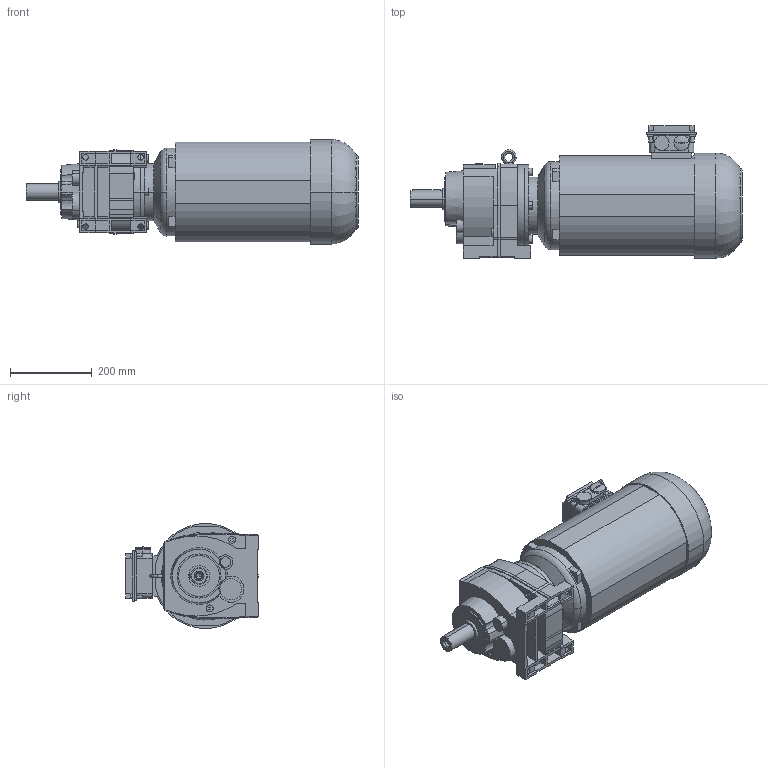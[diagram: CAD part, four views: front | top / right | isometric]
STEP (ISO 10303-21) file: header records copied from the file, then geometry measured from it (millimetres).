
FILE_DESCRIPTION(('STEP AP214'),'1');
FILE_NAME('STEP-File.stp','2018-01-01T00:00:00',(' '),('KEB'),' ','KEB-DRIVE',' ');
FILE_SCHEMA(('AUTOMOTIVE_DESIGN { 1 0 10303 214 1 1 1 1 }'));
Length unit declared in the file: millimetre
Products named in the file (9): g4a; w4_we_40x80; ca4; dm132_kkn; kk10; PLUG_M32; SCREW-PLUG_M32; ndm132; G43A DM132SB4§CAD13
Assembly tree (8 placements, depth 2):
  G43A DM132SB4§CAD13
    g4a
    w4_we_40x80
    ca4
    dm132_kkn
    kk10
    PLUG_M32
    SCREW-PLUG_M32
    ndm132
Bounding box: 813.5 x 324.6 x 257.5 mm (x, y, z)
Volume: 31765685.2 mm3; surface area: 1061154.6 mm2
Topology: 8 solids, 8 shells, 388 faces, 1020 edges, 676 vertices
Faces by surface type: plane 253, cylinder 96, torus 19, cone 18, bspline 2
Entity records: 14145 total; most frequent: CARTESIAN_POINT 4573, ORIENTED_EDGE 2036, DIRECTION 1782, EDGE_CURVE 1018, VECTOR 678, LINE 678, VERTEX_POINT 676, AXIS2_PLACEMENT_3D 552
